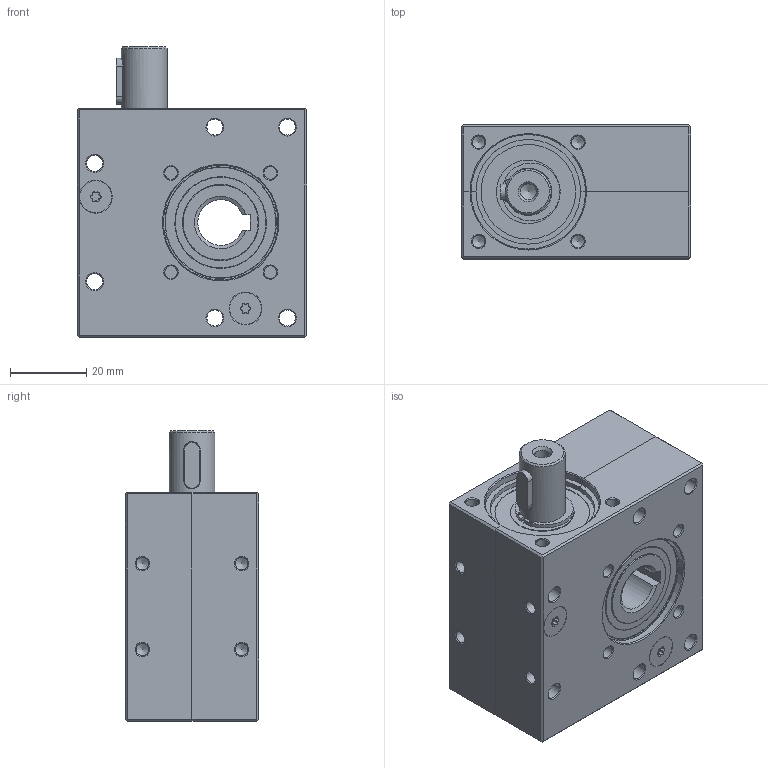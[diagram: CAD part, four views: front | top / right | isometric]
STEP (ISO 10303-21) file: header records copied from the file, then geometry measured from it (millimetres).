
FILE_DESCRIPTION(/* description */ (''),/* implementation_level */ '2;1');
FILE_NAME(/* name */ 'C:\Users\weber_h\Desktop\2020_00-S0.stp',/* time_stamp */ '2022-01-21T07:58:12+01:00',/* author */ ('Weber_H'),/* organization */ (''),/* preprocessor_version */ 'ST-DEVELOPER v18',/* originating_system */ 'Autodesk Inventor 2020',/* authorisation */ '');
FILE_SCHEMA (('AUTOMOTIVE_DESIGN { 1 0 10303 214 3 1 1 }'));
Length unit declared in the file: millimetre
Products named in the file (1): Bauteil1
Bounding box: 60 x 35 x 76 mm (x, y, z)
Volume: 112461.3 mm3; surface area: 23694 mm2
Topology: 1 solids, 1 shells, 275 faces, 705 edges, 461 vertices
Faces by surface type: cylinder 125, plane 76, cone 68, torus 4, bspline 2
Full cylindrical faces by diameter (mm): 2.5 x1, 3.3 x20, 3.8 x4, 4.134 x1, 4.2 x12, 8.4 x4, 8.6 x4, 12 x2, 16.7 x2, 19.99 x2, 23 x1, 24 x1, 24.8 x2, 29 x2, 30 x2
Entity records: 9033 total; most frequent: DIRECTION 1620, CARTESIAN_POINT 1620, ORIENTED_EDGE 1382, EDGE_CURVE 691, AXIS2_PLACEMENT_3D 663, VERTEX_POINT 461, CIRCLE 389, EDGE_LOOP 332
